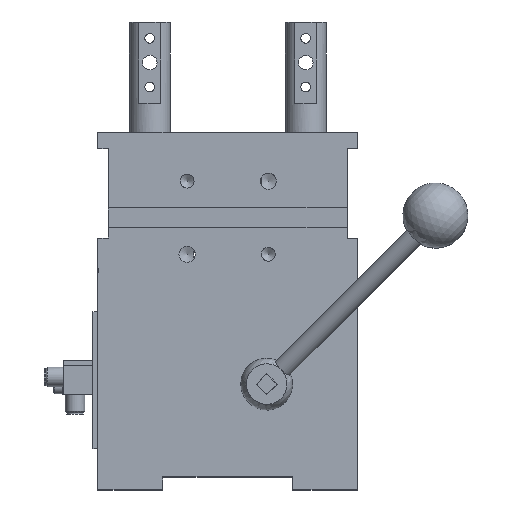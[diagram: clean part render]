
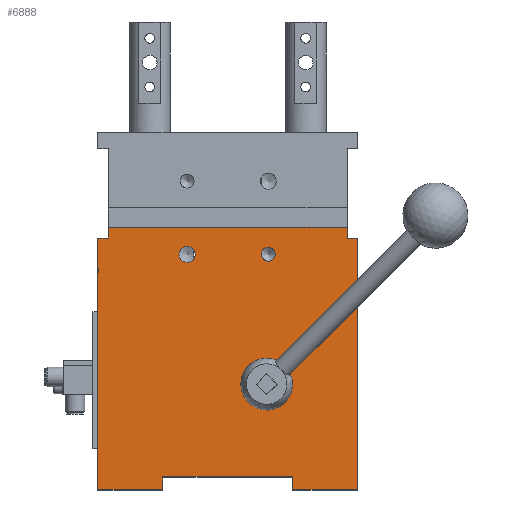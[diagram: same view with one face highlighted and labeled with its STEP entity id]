
A CAD part, top view. The second image highlights one B-rep face of the part: STEP entity #6888.
In plain terms, the highlighted planar face has unit normal (0, 0, 1).
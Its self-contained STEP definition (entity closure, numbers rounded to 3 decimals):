
#319=LINE('',#11950,#718);
#342=LINE('',#11995,#741);
#343=LINE('',#11997,#742);
#344=LINE('',#11999,#743);
#345=LINE('',#12001,#744);
#346=LINE('',#12003,#745);
#347=LINE('',#12005,#746);
#348=LINE('',#12007,#747);
#349=LINE('',#12009,#748);
#350=LINE('',#12011,#749);
#351=LINE('',#12013,#750);
#352=LINE('',#12014,#751);
#718=VECTOR('',#9279,147.);
#741=VECTOR('',#9318,6.5);
#742=VECTOR('',#9319,6.5);
#743=VECTOR('',#9320,155.);
#744=VECTOR('',#9321,40.);
#745=VECTOR('',#9322,8.);
#746=VECTOR('',#9323,80.);
#747=VECTOR('',#9324,8.);
#748=VECTOR('',#9325,40.);
#749=VECTOR('',#9326,155.);
#750=VECTOR('',#9327,6.5);
#751=VECTOR('',#9328,6.5);
#1201=PLANE('',#7647);
#1477=FACE_BOUND('',#2594,.T.);
#1478=FACE_BOUND('',#2595,.T.);
#1479=FACE_BOUND('',#2596,.T.);
#1921=FACE_OUTER_BOUND('',#2593,.T.);
#2593=EDGE_LOOP('',(#5795,#5796,#5797,#5798,#5799,#5800,#5801,#5802,#5803,
#5804,#5805,#5806));
#2594=EDGE_LOOP('',(#5807));
#2595=EDGE_LOOP('',(#5808));
#2596=EDGE_LOOP('',(#5809));
#3118=CIRCLE('',#7560,4.25);
#3119=CIRCLE('',#7562,5.);
#3120=CIRCLE('',#7564,6.);
#3643=VERTEX_POINT('',#11746);
#3644=VERTEX_POINT('',#11759);
#3645=VERTEX_POINT('',#11762);
#3699=VERTEX_POINT('',#11946);
#3701=VERTEX_POINT('',#11949);
#3715=VERTEX_POINT('',#11994);
#3716=VERTEX_POINT('',#11996);
#3717=VERTEX_POINT('',#11998);
#3718=VERTEX_POINT('',#12000);
#3719=VERTEX_POINT('',#12002);
#3720=VERTEX_POINT('',#12004);
#3721=VERTEX_POINT('',#12006);
#3722=VERTEX_POINT('',#12008);
#3723=VERTEX_POINT('',#12010);
#3724=VERTEX_POINT('',#12012);
#4397=EDGE_CURVE('',#3643,#3643,#3118,.T.);
#4399=EDGE_CURVE('',#3644,#3644,#3119,.T.);
#4400=EDGE_CURVE('',#3645,#3645,#3120,.T.);
#4469=EDGE_CURVE('',#3699,#3701,#319,.F.);
#4492=EDGE_CURVE('',#3699,#3715,#342,.F.);
#4493=EDGE_CURVE('',#3716,#3715,#343,.T.);
#4494=EDGE_CURVE('',#3716,#3717,#344,.F.);
#4495=EDGE_CURVE('',#3717,#3718,#345,.T.);
#4496=EDGE_CURVE('',#3719,#3718,#346,.F.);
#4497=EDGE_CURVE('',#3719,#3720,#347,.T.);
#4498=EDGE_CURVE('',#3720,#3721,#348,.F.);
#4499=EDGE_CURVE('',#3721,#3722,#349,.T.);
#4500=EDGE_CURVE('',#3723,#3722,#350,.F.);
#4501=EDGE_CURVE('',#3723,#3724,#351,.F.);
#4502=EDGE_CURVE('',#3701,#3724,#352,.F.);
#5795=ORIENTED_EDGE('',*,*,#4469,.F.);
#5796=ORIENTED_EDGE('',*,*,#4492,.T.);
#5797=ORIENTED_EDGE('',*,*,#4493,.F.);
#5798=ORIENTED_EDGE('',*,*,#4494,.T.);
#5799=ORIENTED_EDGE('',*,*,#4495,.T.);
#5800=ORIENTED_EDGE('',*,*,#4496,.F.);
#5801=ORIENTED_EDGE('',*,*,#4497,.T.);
#5802=ORIENTED_EDGE('',*,*,#4498,.T.);
#5803=ORIENTED_EDGE('',*,*,#4499,.T.);
#5804=ORIENTED_EDGE('',*,*,#4500,.F.);
#5805=ORIENTED_EDGE('',*,*,#4501,.T.);
#5806=ORIENTED_EDGE('',*,*,#4502,.F.);
#5807=ORIENTED_EDGE('',*,*,#4400,.T.);
#5808=ORIENTED_EDGE('',*,*,#4399,.T.);
#5809=ORIENTED_EDGE('',*,*,#4397,.T.);
#6888=ADVANCED_FACE('',(#1921,#1477,#1478,#1479),#1201,.F.);
#7560=AXIS2_PLACEMENT_3D('',#11747,#9088,#9089);
#7562=AXIS2_PLACEMENT_3D('',#11760,#9092,#9093);
#7564=AXIS2_PLACEMENT_3D('',#11763,#9096,#9097);
#7647=AXIS2_PLACEMENT_3D('',#11993,#9316,#9317);
#9088=DIRECTION('center_axis',(0.,0.,-1.));
#9089=DIRECTION('ref_axis',(1.,0.,0.));
#9092=DIRECTION('center_axis',(0.,0.,-1.));
#9093=DIRECTION('ref_axis',(1.,0.,0.));
#9096=DIRECTION('center_axis',(0.,0.,-1.));
#9097=DIRECTION('ref_axis',(1.,0.,0.));
#9279=DIRECTION('',(-1.,0.,0.));
#9316=DIRECTION('center_axis',(0.,0.,-1.));
#9317=DIRECTION('ref_axis',(0.,1.,0.));
#9318=DIRECTION('',(0.,1.,0.));
#9319=DIRECTION('',(1.,0.,0.));
#9320=DIRECTION('',(0.,1.,0.));
#9321=DIRECTION('',(1.,0.,0.));
#9322=DIRECTION('',(0.,1.,0.));
#9323=DIRECTION('',(1.,0.,0.));
#9324=DIRECTION('',(0.,1.,0.));
#9325=DIRECTION('',(1.,0.,0.));
#9326=DIRECTION('',(0.,1.,0.));
#9327=DIRECTION('',(1.,0.,0.));
#9328=DIRECTION('',(0.,1.,0.));
#11746=CARTESIAN_POINT('',(-20.65,4.325,32.));
#11747=CARTESIAN_POINT('Origin',(-20.65,8.575,32.));
#11759=CARTESIAN_POINT('',(-70.65,3.575,32.));
#11760=CARTESIAN_POINT('Origin',(-70.65,8.575,32.));
#11762=CARTESIAN_POINT('',(-25.893,-67.183,32.));
#11763=CARTESIAN_POINT('Origin',(-21.65,-71.425,32.));
#11946=CARTESIAN_POINT('',(-119.15,25.074,32.));
#11949=CARTESIAN_POINT('',(27.85,25.074,32.));
#11950=CARTESIAN_POINT('',(-45.65,25.074,32.));
#11993=CARTESIAN_POINT('Origin',(-125.65,-136.426,32.));
#11994=CARTESIAN_POINT('',(-119.15,18.574,32.));
#11995=CARTESIAN_POINT('',(-119.15,21.824,32.));
#11996=CARTESIAN_POINT('',(-125.65,18.574,32.));
#11997=CARTESIAN_POINT('',(-122.4,18.574,32.));
#11998=CARTESIAN_POINT('',(-125.65,-136.426,32.));
#11999=CARTESIAN_POINT('',(-125.65,-58.926,32.));
#12000=CARTESIAN_POINT('',(-85.65,-136.426,32.));
#12001=CARTESIAN_POINT('',(-105.65,-136.426,32.));
#12002=CARTESIAN_POINT('',(-85.65,-128.426,32.));
#12003=CARTESIAN_POINT('',(-85.65,-132.426,32.));
#12004=CARTESIAN_POINT('',(-5.65,-128.426,32.));
#12005=CARTESIAN_POINT('',(-45.65,-128.426,32.));
#12006=CARTESIAN_POINT('',(-5.65,-136.426,32.));
#12007=CARTESIAN_POINT('',(-5.65,-132.426,32.));
#12008=CARTESIAN_POINT('',(34.35,-136.426,32.));
#12009=CARTESIAN_POINT('',(14.35,-136.426,32.));
#12010=CARTESIAN_POINT('',(34.35,18.574,32.));
#12011=CARTESIAN_POINT('',(34.35,-58.926,32.));
#12012=CARTESIAN_POINT('',(27.85,18.574,32.));
#12013=CARTESIAN_POINT('',(31.1,18.574,32.));
#12014=CARTESIAN_POINT('',(27.85,21.824,32.));
